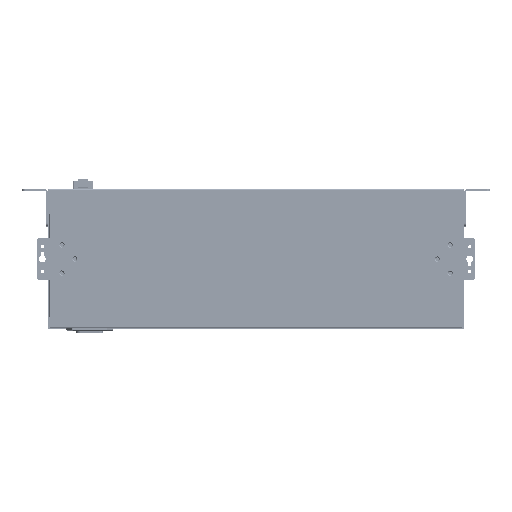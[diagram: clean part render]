
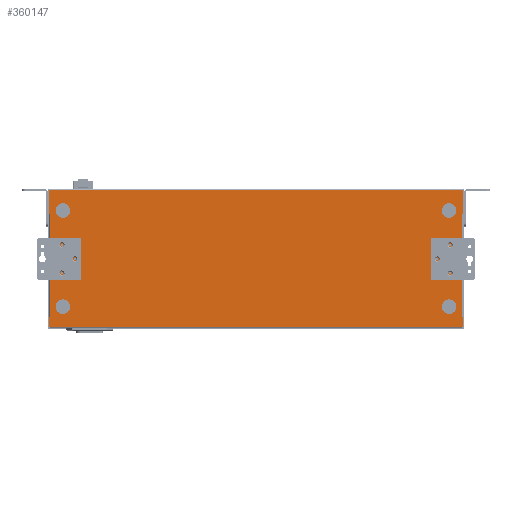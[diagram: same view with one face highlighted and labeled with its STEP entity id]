
A CAD part, front view. The second image highlights one B-rep face of the part: STEP entity #360147.
In plain terms, the highlighted planar face has unit normal (0, -1, 0).
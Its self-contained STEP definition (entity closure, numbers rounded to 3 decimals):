
#9833=FACE_BOUND('',#55740,.T.);
#9834=FACE_BOUND('',#55741,.T.);
#9835=FACE_BOUND('',#55742,.T.);
#9836=FACE_BOUND('',#55743,.T.);
#9837=FACE_BOUND('',#55744,.T.);
#9838=FACE_BOUND('',#55745,.T.);
#9839=FACE_BOUND('',#55746,.T.);
#9840=FACE_BOUND('',#55747,.T.);
#9841=FACE_BOUND('',#55748,.T.);
#9842=FACE_BOUND('',#55749,.T.);
#19785=PLANE('',#385705);
#36794=FACE_OUTER_BOUND('',#55739,.T.);
#55739=EDGE_LOOP('',(#319494,#319495,#319496,#319497,#319498,#319499,#319500,
#319501,#319502,#319503,#319504,#319505,#319506,#319507));
#55740=EDGE_LOOP('',(#319508));
#55741=EDGE_LOOP('',(#319509));
#55742=EDGE_LOOP('',(#319510));
#55743=EDGE_LOOP('',(#319511));
#55744=EDGE_LOOP('',(#319512));
#55745=EDGE_LOOP('',(#319513));
#55746=EDGE_LOOP('',(#319514));
#55747=EDGE_LOOP('',(#319515));
#55748=EDGE_LOOP('',(#319516));
#55749=EDGE_LOOP('',(#319517));
#90027=LINE('',#577417,#133472);
#90042=LINE('',#577456,#133487);
#90082=LINE('',#577603,#133527);
#90126=LINE('',#577755,#133571);
#94401=LINE('',#595069,#137846);
#94407=LINE('',#595095,#137852);
#94408=LINE('',#595100,#137853);
#94414=LINE('',#595115,#137859);
#94515=LINE('',#595369,#137960);
#94517=LINE('',#595372,#137962);
#94521=LINE('',#595398,#137966);
#94524=LINE('',#595405,#137969);
#94529=LINE('',#595419,#137974);
#94531=LINE('',#595425,#137976);
#133472=VECTOR('',#455160,10.);
#133487=VECTOR('',#455185,10.);
#133527=VECTOR('',#455295,10.);
#133571=VECTOR('',#455405,10.);
#137846=VECTOR('',#466118,10.);
#137852=VECTOR('',#466156,10.);
#137853=VECTOR('',#466161,10.);
#137859=VECTOR('',#466181,10.);
#137960=VECTOR('',#466494,10.);
#137962=VECTOR('',#466498,10.);
#137966=VECTOR('',#466542,10.);
#137969=VECTOR('',#466549,10.);
#137974=VECTOR('',#466568,10.);
#137976=VECTOR('',#466578,10.);
#152919=CIRCLE('',#385464,1.265);
#152921=CIRCLE('',#385467,1.265);
#152923=CIRCLE('',#385470,1.265);
#152925=CIRCLE('',#385474,7.5);
#152927=CIRCLE('',#385478,7.5);
#152960=CIRCLE('',#385568,1.265);
#152962=CIRCLE('',#385571,1.265);
#152964=CIRCLE('',#385574,1.265);
#152968=CIRCLE('',#385584,7.5);
#152970=CIRCLE('',#385588,7.5);
#177936=VERTEX_POINT('',#577414);
#177937=VERTEX_POINT('',#577416);
#177954=VERTEX_POINT('',#577452);
#177956=VERTEX_POINT('',#577455);
#178027=VERTEX_POINT('',#577600);
#178028=VERTEX_POINT('',#577602);
#178100=VERTEX_POINT('',#577748);
#178103=VERTEX_POINT('',#577753);
#181490=VERTEX_POINT('',#594887);
#181492=VERTEX_POINT('',#594893);
#181494=VERTEX_POINT('',#594899);
#181500=VERTEX_POINT('',#594914);
#181502=VERTEX_POINT('',#594921);
#181533=VERTEX_POINT('',#595064);
#181536=VERTEX_POINT('',#595091);
#181539=VERTEX_POINT('',#595098);
#181542=VERTEX_POINT('',#595121);
#181544=VERTEX_POINT('',#595127);
#181546=VERTEX_POINT('',#595133);
#181555=VERTEX_POINT('',#595172);
#181557=VERTEX_POINT('',#595179);
#181587=VERTEX_POINT('',#595363);
#181589=VERTEX_POINT('',#595395);
#181592=VERTEX_POINT('',#595402);
#223576=EDGE_CURVE('',#177937,#177936,#90027,.T.);
#223596=EDGE_CURVE('',#177956,#177954,#90042,.T.);
#223669=EDGE_CURVE('',#178027,#178028,#90082,.T.);
#223746=EDGE_CURVE('',#178103,#178100,#90126,.T.);
#229339=EDGE_CURVE('',#181490,#181490,#152919,.T.);
#229342=EDGE_CURVE('',#181492,#181492,#152921,.T.);
#229345=EDGE_CURVE('',#181494,#181494,#152923,.T.);
#229352=EDGE_CURVE('',#181500,#181500,#152925,.T.);
#229355=EDGE_CURVE('',#181502,#181502,#152927,.T.);
#229431=EDGE_CURVE('',#177956,#181533,#94401,.T.);
#229444=EDGE_CURVE('',#181536,#177937,#94407,.T.);
#229446=EDGE_CURVE('',#181539,#177954,#94408,.T.);
#229456=EDGE_CURVE('',#181536,#181539,#94414,.T.);
#229458=EDGE_CURVE('',#181542,#181542,#152960,.T.);
#229461=EDGE_CURVE('',#181544,#181544,#152962,.T.);
#229464=EDGE_CURVE('',#181546,#181546,#152964,.T.);
#229488=EDGE_CURVE('',#181555,#181555,#152968,.T.);
#229491=EDGE_CURVE('',#181557,#181557,#152970,.T.);
#229588=EDGE_CURVE('',#178103,#181587,#94515,.T.);
#229590=EDGE_CURVE('',#181533,#181587,#94517,.T.);
#229601=EDGE_CURVE('',#181589,#178027,#94521,.T.);
#229605=EDGE_CURVE('',#181592,#178100,#94524,.T.);
#229614=EDGE_CURVE('',#181589,#181592,#94529,.T.);
#229616=EDGE_CURVE('',#177936,#178028,#94531,.T.);
#319494=ORIENTED_EDGE('',*,*,#229614,.T.);
#319495=ORIENTED_EDGE('',*,*,#229605,.T.);
#319496=ORIENTED_EDGE('',*,*,#223746,.F.);
#319497=ORIENTED_EDGE('',*,*,#229588,.T.);
#319498=ORIENTED_EDGE('',*,*,#229590,.F.);
#319499=ORIENTED_EDGE('',*,*,#229431,.F.);
#319500=ORIENTED_EDGE('',*,*,#223596,.T.);
#319501=ORIENTED_EDGE('',*,*,#229446,.F.);
#319502=ORIENTED_EDGE('',*,*,#229456,.F.);
#319503=ORIENTED_EDGE('',*,*,#229444,.T.);
#319504=ORIENTED_EDGE('',*,*,#223576,.T.);
#319505=ORIENTED_EDGE('',*,*,#229616,.T.);
#319506=ORIENTED_EDGE('',*,*,#223669,.F.);
#319507=ORIENTED_EDGE('',*,*,#229601,.F.);
#319508=ORIENTED_EDGE('',*,*,#229355,.F.);
#319509=ORIENTED_EDGE('',*,*,#229352,.F.);
#319510=ORIENTED_EDGE('',*,*,#229345,.F.);
#319511=ORIENTED_EDGE('',*,*,#229342,.F.);
#319512=ORIENTED_EDGE('',*,*,#229339,.F.);
#319513=ORIENTED_EDGE('',*,*,#229458,.T.);
#319514=ORIENTED_EDGE('',*,*,#229461,.T.);
#319515=ORIENTED_EDGE('',*,*,#229464,.T.);
#319516=ORIENTED_EDGE('',*,*,#229488,.T.);
#319517=ORIENTED_EDGE('',*,*,#229491,.T.);
#360147=ADVANCED_FACE('',(#36794,#9833,#9834,#9835,#9836,#9837,#9838,#9839,
#9840,#9841,#9842),#19785,.F.);
#385464=AXIS2_PLACEMENT_3D('',#594888,#465905,#465906);
#385467=AXIS2_PLACEMENT_3D('',#594894,#465912,#465913);
#385470=AXIS2_PLACEMENT_3D('',#594900,#465919,#465920);
#385474=AXIS2_PLACEMENT_3D('',#594915,#465932,#465933);
#385478=AXIS2_PLACEMENT_3D('',#594922,#465941,#465942);
#385568=AXIS2_PLACEMENT_3D('',#595122,#466191,#466192);
#385571=AXIS2_PLACEMENT_3D('',#595128,#466198,#466199);
#385574=AXIS2_PLACEMENT_3D('',#595134,#466205,#466206);
#385584=AXIS2_PLACEMENT_3D('',#595173,#466245,#466246);
#385588=AXIS2_PLACEMENT_3D('',#595180,#466254,#466255);
#385705=AXIS2_PLACEMENT_3D('',#595428,#466582,#466583);
#455160=DIRECTION('',(0.,0.,1.));
#455185=DIRECTION('',(0.,0.,1.));
#455295=DIRECTION('',(0.,0.,1.));
#455405=DIRECTION('',(0.,0.,1.));
#465905=DIRECTION('center_axis',(0.,-1.,0.));
#465906=DIRECTION('ref_axis',(0.,0.,-1.));
#465912=DIRECTION('center_axis',(0.,-1.,0.));
#465913=DIRECTION('ref_axis',(0.,0.,-1.));
#465919=DIRECTION('center_axis',(0.,-1.,0.));
#465920=DIRECTION('ref_axis',(0.,0.,-1.));
#465932=DIRECTION('center_axis',(0.,-1.,0.));
#465933=DIRECTION('ref_axis',(-1.,0.,0.));
#465941=DIRECTION('center_axis',(0.,-1.,0.));
#465942=DIRECTION('ref_axis',(-1.,0.,0.));
#466118=DIRECTION('',(-1.,0.,0.));
#466156=DIRECTION('',(1.,0.,0.));
#466161=DIRECTION('',(1.,0.,0.));
#466181=DIRECTION('',(0.,0.,-1.));
#466191=DIRECTION('center_axis',(0.,1.,0.));
#466192=DIRECTION('ref_axis',(0.,0.,-1.));
#466198=DIRECTION('center_axis',(0.,1.,0.));
#466199=DIRECTION('ref_axis',(0.,0.,-1.));
#466205=DIRECTION('center_axis',(0.,1.,0.));
#466206=DIRECTION('ref_axis',(0.,0.,-1.));
#466245=DIRECTION('center_axis',(0.,1.,0.));
#466246=DIRECTION('ref_axis',(1.,0.,0.));
#466254=DIRECTION('center_axis',(0.,1.,0.));
#466255=DIRECTION('ref_axis',(1.,0.,0.));
#466494=DIRECTION('',(1.,0.,0.));
#466498=DIRECTION('',(-1.,0.,0.));
#466542=DIRECTION('',(-1.,0.,0.));
#466549=DIRECTION('',(-1.,0.,0.));
#466568=DIRECTION('',(0.,0.,-1.));
#466578=DIRECTION('',(-1.,0.,0.));
#466582=DIRECTION('center_axis',(0.,1.,0.));
#466583=DIRECTION('ref_axis',(1.,0.,0.));
#577414=CARTESIAN_POINT('',(212.5,0.,-1.01));
#577416=CARTESIAN_POINT('',(212.5,0.,-25.81));
#577417=CARTESIAN_POINT('',(212.5,0.,-106.745));
#577452=CARTESIAN_POINT('',(212.5,0.,-131.64));
#577455=CARTESIAN_POINT('',(212.5,0.,-141.99));
#577456=CARTESIAN_POINT('',(212.5,0.,-106.745));
#577600=CARTESIAN_POINT('',(-212.5,0.,-25.81));
#577602=CARTESIAN_POINT('',(-212.5,0.,-1.01));
#577603=CARTESIAN_POINT('',(-212.5,0.,-106.745));
#577748=CARTESIAN_POINT('',(-212.5,0.,-131.64));
#577753=CARTESIAN_POINT('',(-212.5,0.,-141.99));
#577755=CARTESIAN_POINT('',(-212.5,0.,-106.745));
#594887=CARTESIAN_POINT('',(199.5,0.,-85.225));
#594888=CARTESIAN_POINT('Origin',(199.5,0.,-86.49));
#594893=CARTESIAN_POINT('',(199.5,0.,-56.245));
#594894=CARTESIAN_POINT('Origin',(199.5,0.,-57.51));
#594899=CARTESIAN_POINT('',(186.25,0.,-70.735));
#594900=CARTESIAN_POINT('Origin',(186.25,0.,-72.));
#594914=CARTESIAN_POINT('',(206.,0.,-121.));
#594915=CARTESIAN_POINT('Origin',(198.5,0.,-121.));
#594921=CARTESIAN_POINT('',(206.,0.,-22.2));
#594922=CARTESIAN_POINT('Origin',(198.5,0.,-22.2));
#595064=CARTESIAN_POINT('',(211.49,0.,-141.99));
#595069=CARTESIAN_POINT('',(53.125,0.,-141.99));
#595091=CARTESIAN_POINT('',(211.49,0.,-25.81));
#595095=CARTESIAN_POINT('',(211.49,0.,-25.81));
#595098=CARTESIAN_POINT('',(211.49,0.,-131.64));
#595100=CARTESIAN_POINT('',(211.49,0.,-131.64));
#595115=CARTESIAN_POINT('',(211.49,0.,-106.745));
#595121=CARTESIAN_POINT('',(-199.5,0.,-85.225));
#595122=CARTESIAN_POINT('Origin',(-199.5,0.,-86.49));
#595127=CARTESIAN_POINT('',(-199.5,0.,-56.245));
#595128=CARTESIAN_POINT('Origin',(-199.5,0.,-57.51));
#595133=CARTESIAN_POINT('',(-186.25,0.,-70.735));
#595134=CARTESIAN_POINT('Origin',(-186.25,0.,-72.));
#595172=CARTESIAN_POINT('',(-206.,0.,-121.));
#595173=CARTESIAN_POINT('Origin',(-198.5,0.,-121.));
#595179=CARTESIAN_POINT('',(-206.,0.,-22.2));
#595180=CARTESIAN_POINT('Origin',(-198.5,0.,-22.2));
#595363=CARTESIAN_POINT('',(-211.49,0.,-141.99));
#595369=CARTESIAN_POINT('',(-53.125,0.,-141.99));
#595372=CARTESIAN_POINT('',(53.125,0.,-141.99));
#595395=CARTESIAN_POINT('',(-211.49,0.,-25.81));
#595398=CARTESIAN_POINT('',(-211.49,0.,-25.81));
#595402=CARTESIAN_POINT('',(-211.49,0.,-131.64));
#595405=CARTESIAN_POINT('',(-211.49,0.,-131.64));
#595419=CARTESIAN_POINT('',(-211.49,0.,-106.745));
#595425=CARTESIAN_POINT('',(-159.375,0.,-1.01));
#595428=CARTESIAN_POINT('Origin',(-106.25,0.,-71.5));
